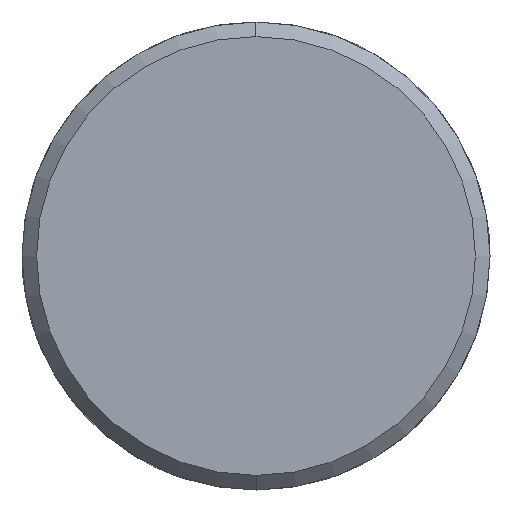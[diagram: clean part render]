
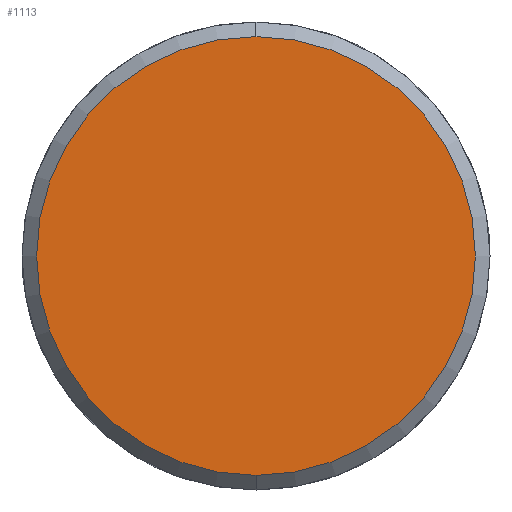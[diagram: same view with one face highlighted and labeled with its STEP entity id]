
A CAD part, left-side view. The second image highlights one B-rep face of the part: STEP entity #1113.
In plain terms, the highlighted planar face has unit normal (-1, 0, 0).
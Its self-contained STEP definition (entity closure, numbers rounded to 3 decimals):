
#1045=CARTESIAN_POINT('Vertex',(-6.,0.,-15.)) ;
#1048=CARTESIAN_POINT('Axis2P3D Location',(-6.,0.,0.)) ;
#1052=CARTESIAN_POINT('Vertex',(-6.,15.,0.)) ;
#1055=CARTESIAN_POINT('Axis2P3D Location',(-6.,0.,0.)) ;
#1059=CARTESIAN_POINT('Vertex',(-6.,0.,15.)) ;
#1081=CARTESIAN_POINT('Axis2P3D Location',(-6.,0.,0.)) ;
#1085=CARTESIAN_POINT('Vertex',(-6.,-15.,0.)) ;
#1088=CARTESIAN_POINT('Axis2P3D Location',(-6.,0.,0.)) ;
#1102=CARTESIAN_POINT('Axis2P3D Location',(-6.,0.,0.)) ;
#1049=DIRECTION('Axis2P3D Direction',(1.,0.,-0.)) ;
#1056=DIRECTION('Axis2P3D Direction',(1.,0.,-0.)) ;
#1082=DIRECTION('Axis2P3D Direction',(1.,0.,-0.)) ;
#1089=DIRECTION('Axis2P3D Direction',(1.,0.,-0.)) ;
#1103=DIRECTION('Axis2P3D Direction',(1.,0.,-0.)) ;
#1104=DIRECTION('Axis2P3D XDirection',(-0.,0.,-1.)) ;
#1050=AXIS2_PLACEMENT_3D('Circle Axis2P3D',#1048,#1049,$) ;
#1057=AXIS2_PLACEMENT_3D('Circle Axis2P3D',#1055,#1056,$) ;
#1083=AXIS2_PLACEMENT_3D('Circle Axis2P3D',#1081,#1082,$) ;
#1090=AXIS2_PLACEMENT_3D('Circle Axis2P3D',#1088,#1089,$) ;
#1105=AXIS2_PLACEMENT_3D('Plane Axis2P3D',#1102,#1103,#1104) ;
#1108=ORIENTED_EDGE('',*,*,#1054,.F.) ;
#1109=ORIENTED_EDGE('',*,*,#1092,.F.) ;
#1110=ORIENTED_EDGE('',*,*,#1087,.F.) ;
#1111=ORIENTED_EDGE('',*,*,#1061,.F.) ;
#1113=ADVANCED_FACE('351-20X36X90',(#1112),#1106,.F.) ;
#1051=CIRCLE('generated circle',#1050,15.) ;
#1058=CIRCLE('generated circle',#1057,15.) ;
#1084=CIRCLE('generated circle',#1083,15.) ;
#1091=CIRCLE('generated circle',#1090,15.) ;
#1054=EDGE_CURVE('',#1046,#1053,#1051,.T.) ;
#1061=EDGE_CURVE('',#1053,#1060,#1058,.T.) ;
#1087=EDGE_CURVE('',#1060,#1086,#1084,.T.) ;
#1092=EDGE_CURVE('',#1086,#1046,#1091,.T.) ;
#1107=EDGE_LOOP('',(#1108,#1109,#1110,#1111)) ;
#1112=FACE_OUTER_BOUND('',#1107,.T.) ;
#1106=PLANE('Plane',#1105) ;
#1046=VERTEX_POINT('',#1045) ;
#1053=VERTEX_POINT('',#1052) ;
#1060=VERTEX_POINT('',#1059) ;
#1086=VERTEX_POINT('',#1085) ;
